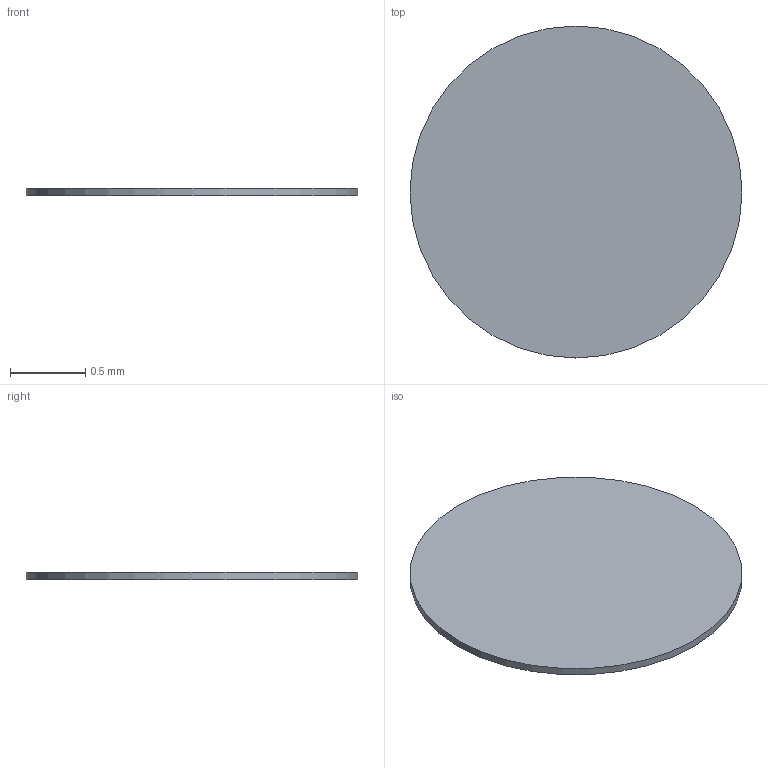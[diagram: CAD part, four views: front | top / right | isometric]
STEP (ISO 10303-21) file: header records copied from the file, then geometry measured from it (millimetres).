
FILE_DESCRIPTION(/* description */ (''),/* implementation_level */ '2;1');
FILE_NAME(/* name */ 'C27_R2_Microphone_Acoustic_Membrane.step',/* time_stamp */ '2026-09-10T17:49:20-07:00',/* author */ (''),/* organization */ (''),/* preprocessor_version */ 'ST-DEVELOPER v20.1',/* originating_system */ 'Autodesk Translation Framework v15.8.0.0',/* authorisation */ '');
FILE_SCHEMA (('AUTOMOTIVE_DESIGN { 1 0 10303 214 3 1 1 }'));
Length unit declared in the file: millimetre
Products named in the file (1): 2026-09-10-17-49-20-016
Bounding box: 2.2 x 2.2 x 0.05 mm (x, y, z)
Volume: 0.2 mm3; surface area: 7.9 mm2
Topology: 1 solids, 1 shells, 3 faces, 3 edges, 2 vertices
Faces by surface type: plane 2, cylinder 1
Full cylindrical faces by diameter (mm): 2.2 x1
Entity records: 92 total; most frequent: DIRECTION 13, CARTESIAN_POINT 9, ORIENTED_EDGE 6, AXIS2_PLACEMENT_3D 6, FACE_OUTER_BOUND 3, EDGE_LOOP 3, EDGE_CURVE 3, ADVANCED_FACE 3
